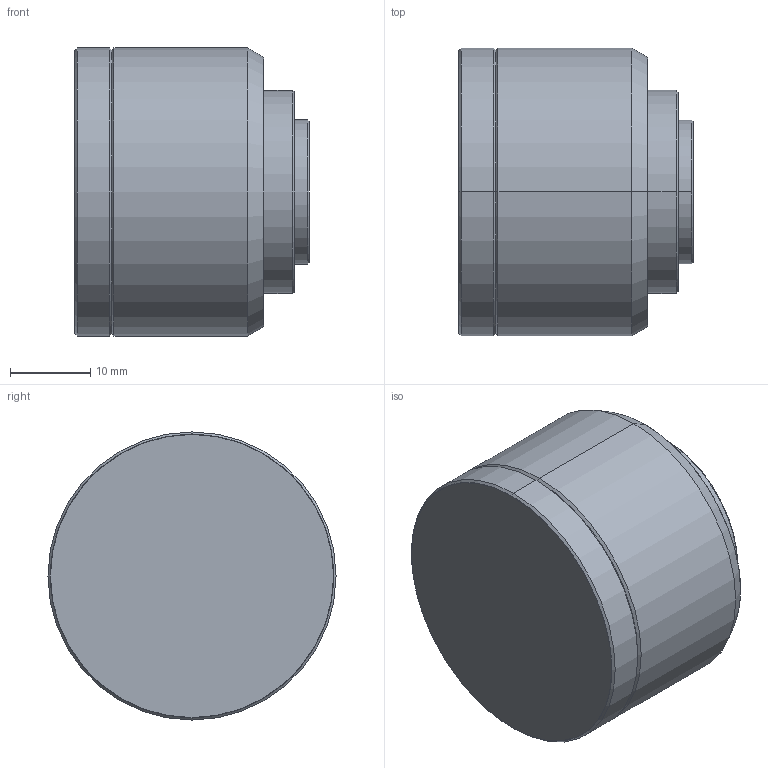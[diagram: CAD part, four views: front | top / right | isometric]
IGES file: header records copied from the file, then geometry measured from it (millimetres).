
Start section: SolidWorks IGES file using analytic representation for surfaces
Global section: file name: C:\Users\16255\Desktop\WWT118-025-50.IGS; native system: SolidWorks 2017; preprocessor: SolidWorks 2017; author: 16255; date: 220408.163803; units: millimetre
Bounding box: 29.3 x 36 x 36 mm (x, y, z)
Surface area: 5007 mm2 (no closed solid volume)
Topology: 0 solids, 0 shells, 24 faces, 336 edges, 336 vertices
Faces by surface type: revolution 20, bspline 4
